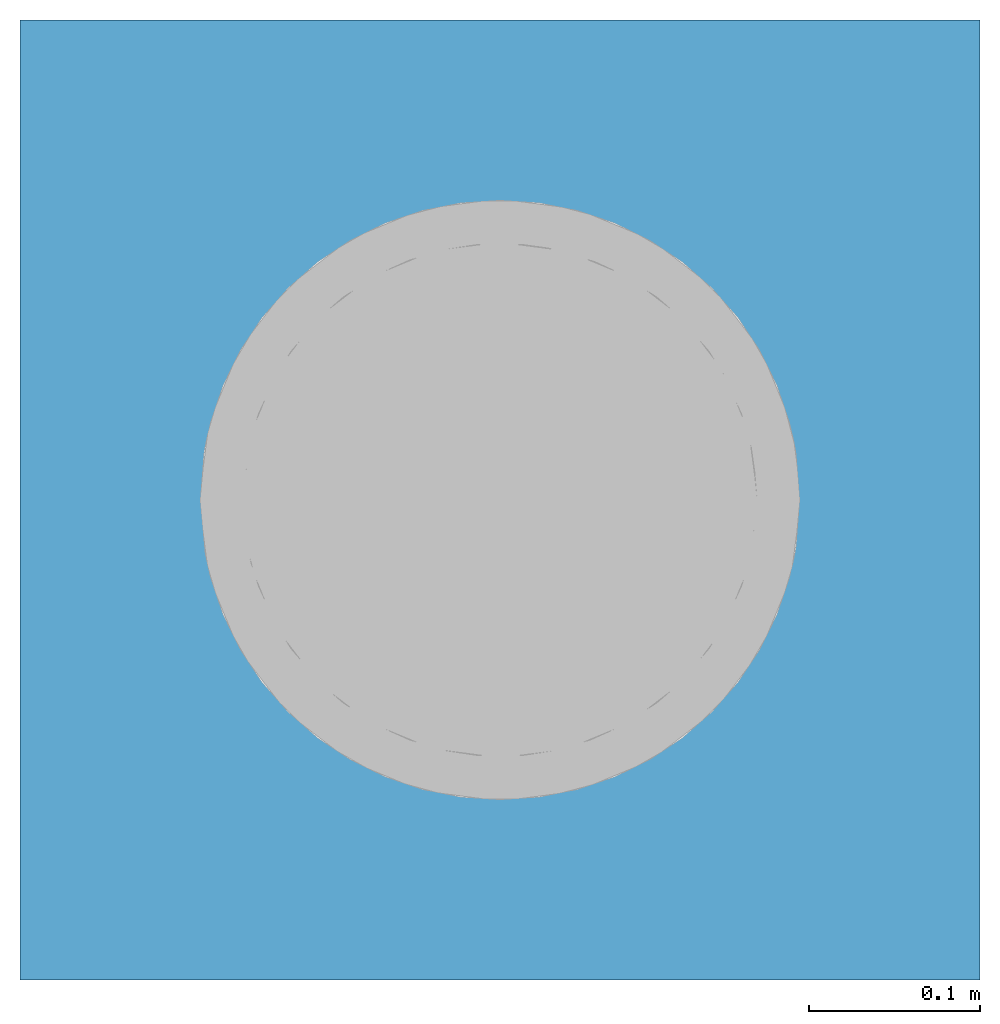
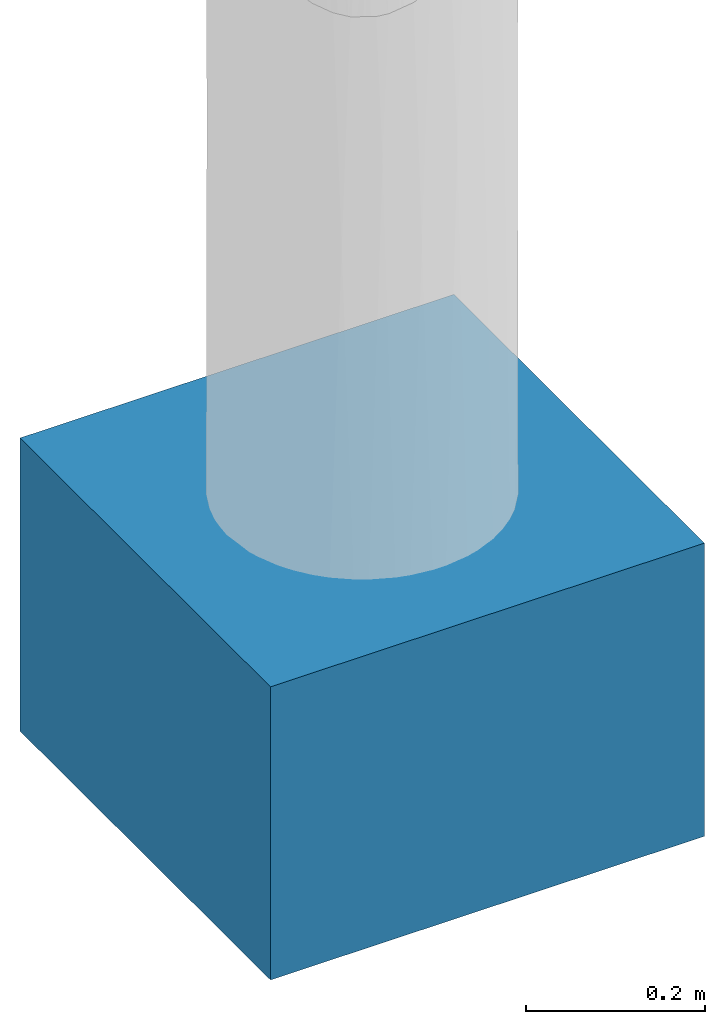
# One storey, incomplete: 1 slab.
"""IFC4 building model written with IfcOpenShell, lengths in metres."""

from ifc_helpers import new_model, entity, si_unit, converted_unit, direction, frame, origin, origin_2d_with_axis, place, context, subcontext, project, spatial, rectangle, extrude, material, type_object, element, save


model = new_model("IFC4")

# Units and contexts
model_context = context("Model", 3, precision=1e-05, world=origin(), true_north=direction((6.123031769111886e-17, 1.0)))
body_context = subcontext(model_context, "Body", "Model", "MODEL_VIEW")
ifc_project = project(units=[si_unit("LENGTHUNIT", "METRE"), converted_unit("PLANEANGLEUNIT", "DEGREE", entity("IfcPlaneAngleMeasure", 0.017453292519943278), si_unit("PLANEANGLEUNIT", "RADIAN"), dimensions=[0, 0, 0, 0, 0, 0, 0]), si_unit("AREAUNIT", "SQUARE_METRE")], contexts=[model_context])

# Site, building, storey
site_placement = place(None, origin())
site = spatial("IfcSite", under=ifc_project, at=site_placement, Name="Default", CompositionType="ELEMENT")
building_placement = place(site_placement, origin())
building = spatial("IfcBuilding", under=site, at=building_placement, CompositionType="ELEMENT")
storey_placement = place(building_placement, origin())
storey = spatial("IfcBuildingStorey", under=building, at=storey_placement, Name="Ebene 0", CompositionType="ELEMENT", Elevation=0.0)

# Slab
ifc_material = material(Name="DB_Ortbeton", Category="DB_Beton")
slab_type = type_object("IfcSlabType", Name="DB_Beleuchtungsmast_Fundament:DB_Beleuchtungsmast_Fundament", PredefinedType="BASESLAB", material=ifc_material)
slab_placement = place(storey_placement, origin())
element("IfcSlab", 1, at=slab_placement, inside=storey, type_object=slab_type, Name="DB_Beleuchtungsmast_Fundament:DB_Beleuchtungsmast_Fundament", ObjectType="DB_Beleuchtungsmast_Fundament:DB_Beleuchtungsmast_Fundament", PredefinedType="BASESLAB", context=body_context, shape_type="SweptSolid", body=[
    extrude(rectangle(XDim=0.5599999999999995, YDim=0.5599999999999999, at=origin_2d_with_axis()), frame((0.0, 0.0, -1.599999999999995), z_axis=(0.0, 0.0, 1.0), x_axis=(-1.0, 0.0, 0.0)), (0.0, 0.0, 1.0), 0.39999999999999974),
])

save(model, "model.ifc")
